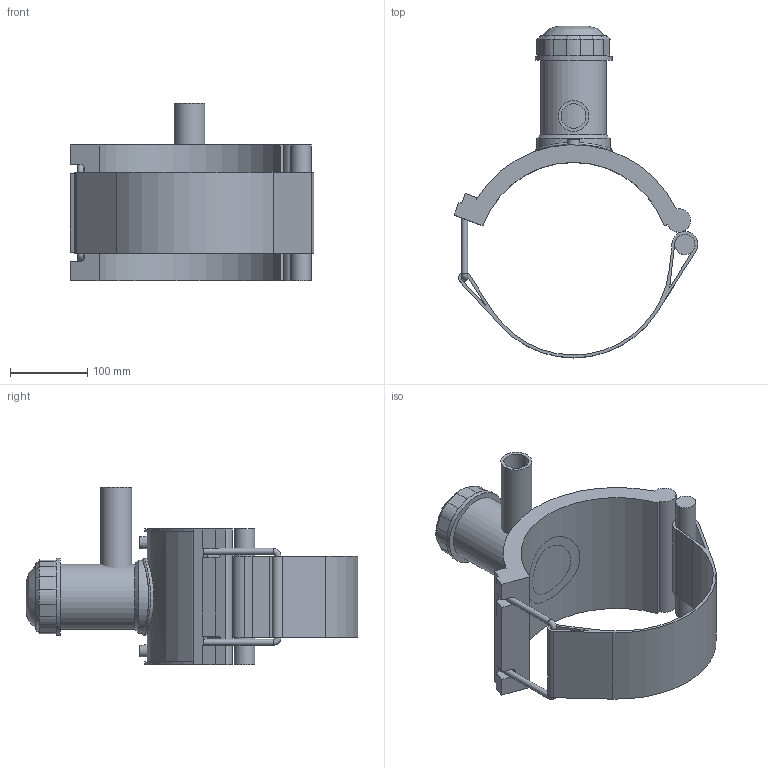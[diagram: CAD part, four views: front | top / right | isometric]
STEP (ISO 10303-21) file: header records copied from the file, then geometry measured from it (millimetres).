
FILE_DESCRIPTION(/* description */ (''),/* implementation_level */ '2;1');
FILE_NAME(/* name */ 'C:\Dropbox\KIMPROJECTS-Inventor 2019\99-16-3568-Processing\ElectroFusion Fittings\4963P4\stp\4963P4250040.stp',/* time_stamp */ '2022-03-17T11:33:14+02:00',/* author */ ('KIM'),/* organization */ (''),/* preprocessor_version */ 'ST-DEVELOPER v17.2',/* originating_system */ 'Autodesk Inventor 2019',/* authorisation */ '');
FILE_SCHEMA (('AUTOMOTIVE_DESIGN { 1 0 10303 214 3 1 1 }'));
Length unit declared in the file: millimetre
Products named in the file (1): 4963P4250040
Bounding box: 316.46 x 430.75 x 230 mm (x, y, z)
Volume: 2392215.3 mm3; surface area: 431522.1 mm2
Topology: 3 solids, 3 shells, 118 faces, 297 edges, 193 vertices
Faces by surface type: plane 65, cylinder 38, cone 11, torus 2, bspline 2
Full cylindrical faces by diameter (mm): 4 x2, 8 x2, 10 x2, 26.346 x1, 32 x1, 40 x1, 70 x1, 85 x1, 95 x1, 100 x2
Entity records: 4041 total; most frequent: CARTESIAN_POINT 1063, DIRECTION 631, ORIENTED_EDGE 596, EDGE_CURVE 298, AXIS2_PLACEMENT_3D 229, VERTEX_POINT 193, LINE 173, VECTOR 173
